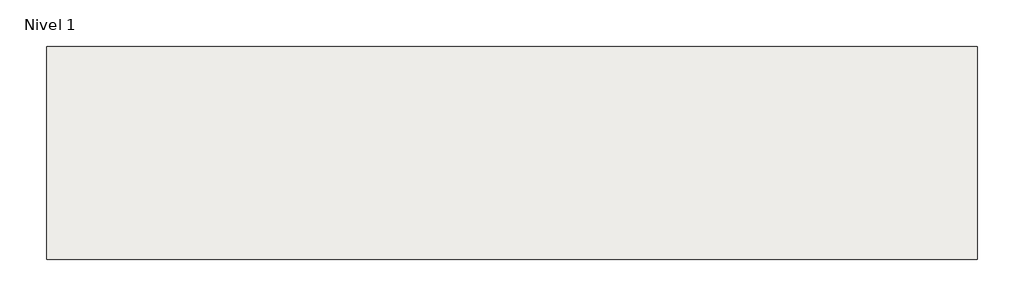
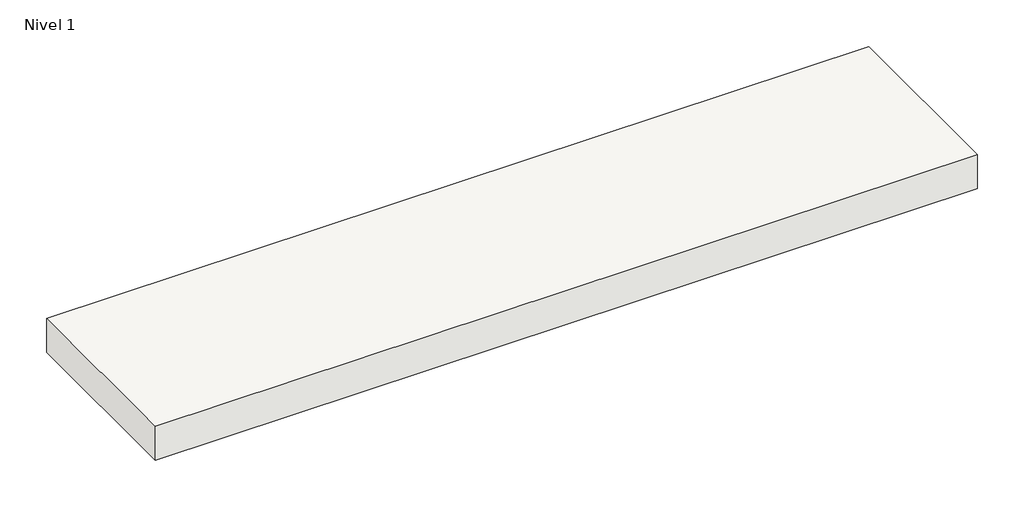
# One storey: 1 slab.
"""IFC4 building model written with IfcOpenShell, lengths in millimetres."""

import ifcopenshell
import ifcopenshell.guid

model = None  # the IFC model being written
_history = None  # IfcOwnerHistory: only IFC2X3 demands one
_inside = {}  # id of a spatial element -> (the spatial element, [elements in it])
_under = {}  # id of a project, library or spatial element -> (it, [spatial elements below it])
_declared = {}  # id of a project -> (the project, [libraries it declares])
_typed = {}  # id of a type object -> (the type object, [elements of that type])
_made_of = {}  # id of a material, layer set ... -> (it, [elements and type objects made of it])


def new_model(schema):
    """Start an empty IFC model of exactly this schema.

    Asked for "IFC4X3", IfcOpenShell would pick the latest addendum, in which some entities
    have other attributes; the version numbers below select the first issue.
    IFC2X3 requires an IfcOwnerHistory on every rooted entity: one is made here for all.
    """
    global model, _history
    if schema == "IFC4X3":
        model = ifcopenshell.file(schema_version=(4, 3, 0, 0))
    else:
        model = ifcopenshell.file(schema=schema)
    _inside.clear()
    _under.clear()
    _declared.clear()
    _typed.clear()
    _made_of.clear()
    _history = None
    if model.schema == "IFC2X3":
        org = make("IfcOrganization", Name="unknown")
        user = make(
            "IfcPersonAndOrganization",
            ThePerson=make("IfcPerson", FamilyName="unknown"),
            TheOrganization=org,
        )
        app = make(
            "IfcApplication",
            ApplicationDeveloper=org,
            Version="unknown",
            ApplicationFullName="unknown",
            ApplicationIdentifier="unknown",
        )
        _history = make(
            "IfcOwnerHistory",
            OwningUser=user,
            OwningApplication=app,
            ChangeAction="ADDED",
            CreationDate=0,
        )
    return model


def make(cls, **values):
    """One entity of the class cls with the attributes given. An attribute that is None is left unset."""
    return model.create_entity(
        cls, **{name: value for name, value in values.items() if value is not None}
    )


def rooted(cls, **values):
    """An entity with a GlobalId (a new one), such as an element, a storey or a relation."""
    return make(cls, GlobalId=ifcopenshell.guid.new(), OwnerHistory=_history, **values)


def si_unit(unit_type, name, prefix=None):
    """IfcSIUnit, for example si_unit("LENGTHUNIT", "METRE", prefix="MILLI")."""
    return make("IfcSIUnit", UnitType=unit_type, Prefix=prefix, Name=name)


def assignment(units):
    """IfcUnitAssignment: the units of a project."""
    return None if units is None else make("IfcUnitAssignment", Units=units)


def point(xyz):
    """IfcCartesianPoint."""
    return None if xyz is None else make("IfcCartesianPoint", Coordinates=xyz)


def direction(xyz):
    """IfcDirection."""
    return None if xyz is None else make("IfcDirection", DirectionRatios=xyz)


def frame(location, z_axis=None, x_axis=None):
    """IfcAxis2Placement3D, a coordinate frame: its origin and axes. An axis left out is left unset."""
    return make(
        "IfcAxis2Placement3D",
        Location=point(location),
        Axis=direction(z_axis),
        RefDirection=direction(x_axis),
    )


def origin():
    """The frame at (0, 0, 0) with its axes left unset."""
    return frame((0.0, 0.0, 0.0))


def place(relative_to, where):
    """IfcLocalPlacement: puts the frame where relative to a parent placement (None: the world)."""
    return make(
        "IfcLocalPlacement", PlacementRelTo=relative_to, RelativePlacement=where
    )


def context(
    kind, dimensions, precision=None, world=None, true_north=None, identifier=None
):
    """IfcGeometricRepresentationContext, for example the 3D "Model" context."""
    return make(
        "IfcGeometricRepresentationContext",
        ContextIdentifier=identifier,
        ContextType=kind,
        CoordinateSpaceDimension=dimensions,
        Precision=precision,
        WorldCoordinateSystem=world,
        TrueNorth=true_north,
    )


def project(units=None, contexts=None):
    """IfcProject with its units and contexts."""
    return rooted(
        "IfcProject",
        Name="project",
        RepresentationContexts=contexts,
        UnitsInContext=assignment(units),
    )


def spatial(cls, under=None, at=None, **own):
    """A site, building, storey or space (cls), placed at a placement, below another one or the project."""
    s = rooted(cls, ObjectPlacement=at, **own)
    if under is not None:
        _under.setdefault(under.id(), (under, []))[1].append(s)
    return s


def polyline(points):
    """IfcPolyline through the points."""
    return make("IfcPolyline", Points=[point(p) for p in points])


def outline(outer, holes=None, kind="AREA"):
    """IfcArbitraryClosedProfileDef: a profile drawn as a closed curve; with holes, ...WithVoids."""
    if holes is None:
        return make("IfcArbitraryClosedProfileDef", ProfileType=kind, OuterCurve=outer)
    return make(
        "IfcArbitraryProfileDefWithVoids",
        ProfileType=kind,
        OuterCurve=outer,
        InnerCurves=holes,
    )


def extrude(swept, where, along, depth):
    """IfcExtrudedAreaSolid: the profile swept, set in the frame where, extruded along a direction by depth."""
    return make(
        "IfcExtrudedAreaSolid",
        SweptArea=swept,
        Position=where,
        ExtrudedDirection=direction(along),
        Depth=depth,
    )


def shape(context_of_items, identifier, shape_type, items):
    """IfcShapeRepresentation: the items that make up one representation, for example the "Body"."""
    return make(
        "IfcShapeRepresentation",
        ContextOfItems=context_of_items,
        RepresentationIdentifier=identifier,
        RepresentationType=shape_type,
        Items=items,
    )


def made_of(thing, what):
    """Note that an element or type object is made of a material, layer set ...; save() writes the relation."""
    if what is not None:
        _made_of.setdefault(what.id(), (what, []))[1].append(thing)
    return thing


def element(
    cls,
    number,
    at=None,
    inside=None,
    cuts=None,
    type_object=None,
    material=None,
    context=None,
    identifier="Body",
    shape_type=None,
    held_by="IfcProductDefinitionShape",
    body=None,
    shapes=None,
    **own,
):
    """One element of the class cls, such as IfcWall. Its Tag is "e" and its number.

    at: its placement. inside: the storey or other place that contains it. cuts: it is an
    opening in that element (IfcRelVoidsElement). A single representation is given by context,
    identifier, shape_type and body (its items); several are given by shapes. held_by: the class
    of the entity that holds the representations. save() writes the other relations.
    """
    e = rooted(cls, Tag="e%d" % number, ObjectPlacement=at, **own)
    if body is not None:
        shapes = [shape(context, identifier, shape_type, body)]
    if shapes is not None:
        e.Representation = make(held_by, Representations=shapes)
    if inside is not None:
        _inside.setdefault(inside.id(), (inside, []))[1].append(e)
    if cuts is not None:
        rooted(
            "IfcRelVoidsElement", RelatingBuildingElement=cuts, RelatedOpeningElement=e
        )
    if type_object is not None:
        _typed.setdefault(type_object.id(), (type_object, []))[1].append(e)
    return made_of(e, material)


def aggregate(whole, parts):
    """IfcRelAggregates: a whole, such as a stair, and the parts it consists of."""
    return rooted("IfcRelAggregates", RelatingObject=whole, RelatedObjects=parts)


def save(model, path):
    """Write the relations noted so far, then the file.

    IfcRelAggregates (storeys below a building ...), IfcRelContainedInSpatialStructure (elements
    in a storey), IfcRelDefinesByType, IfcRelAssociatesMaterial and IfcRelDeclares: one each for
    every whole, place, type object, material and project.
    """
    for whole, parts in _under.values():
        aggregate(whole, parts)
    for where, things in _inside.values():
        rooted(
            "IfcRelContainedInSpatialStructure",
            RelatedElements=things,
            RelatingStructure=where,
        )
    for kind, things in _typed.values():
        rooted("IfcRelDefinesByType", RelatedObjects=things, RelatingType=kind)
    for what, things in _made_of.values():
        rooted("IfcRelAssociatesMaterial", RelatedObjects=things, RelatingMaterial=what)
    for by, libraries in _declared.values():
        rooted("IfcRelDeclares", RelatingContext=by, RelatedDefinitions=libraries)
    model.write(path)


model = new_model("IFC4")

# Units and contexts
model_context = context("Model", 3, world=origin())
ifc_project = project(units=[si_unit("LENGTHUNIT", "METRE", prefix="MILLI")], contexts=[model_context])

# Site, building, storey
site = spatial("IfcSite", under=ifc_project)
building = spatial("IfcBuilding", under=site)
storey = spatial("IfcBuildingStorey", under=building, Name="Nivel 1", Elevation=0.0)

# Slab
placement = place(None, origin())
element("IfcSlab", 1, ObjectType="Thermochip Floor S 20-12-60-12 (2400 X 550)", at=placement, inside=storey, context=model_context, shape_type="SweptSolid", body=[
    extrude(outline(polyline([(2993.0117071, 9232.6557725), (2993.0117071, 8682.6557725), (593.0117071, 8682.6557725), (593.0117071, 9232.6557725), (2993.0117071, 9232.6557725)])), frame((0.0, 0.0, -105.0), z_axis=(0.0, 0.0, 1.0), x_axis=(1.0, 0.0, 0.0)), (0.0, 0.0, 1.0), 105.0),
])

save(model, "model.ifc")
